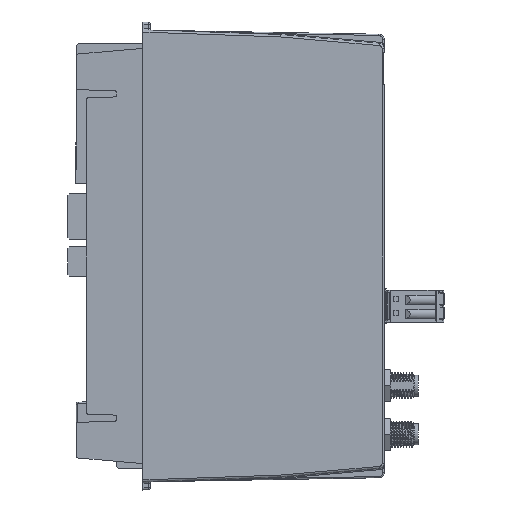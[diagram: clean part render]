
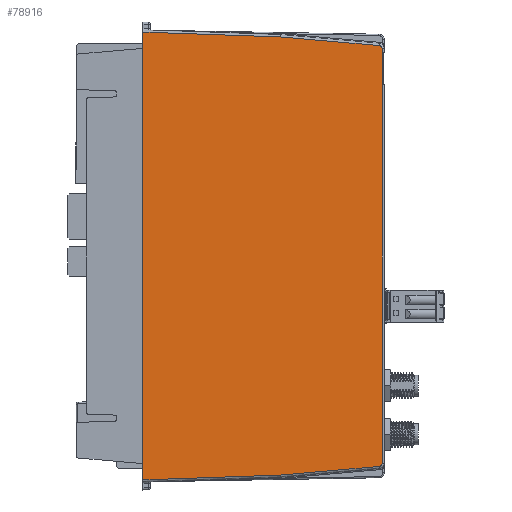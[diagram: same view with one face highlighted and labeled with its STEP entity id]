
A CAD part, left-side view. The second image highlights one B-rep face of the part: STEP entity #78916.
In plain terms, the highlighted planar face has unit normal (-1, -0.018, 0).
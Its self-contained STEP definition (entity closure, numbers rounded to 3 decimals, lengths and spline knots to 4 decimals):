
#671=ELLIPSE('',#83242,0.0315,0.0315);
#672=ELLIPSE('',#83243,0.0315,0.0315);
#2689=PLANE('',#83241);
#6704=FACE_OUTER_BOUND('',#10847,.T.);
#10847=EDGE_LOOP('',(#59601,#59602,#59603,#59604,#59605,#59606,#59607,#59608,
#59609,#59610));
#19430=LINE('',#151743,#27458);
#19751=LINE('',#153022,#27779);
#19752=LINE('',#153024,#27780);
#19753=LINE('',#153026,#27781);
#19754=LINE('',#153028,#27782);
#19755=LINE('',#153030,#27783);
#19756=LINE('',#153034,#27784);
#19757=LINE('',#153037,#27785);
#27458=VECTOR('',#93658,39.3701);
#27779=VECTOR('',#94353,39.3701);
#27780=VECTOR('',#94354,39.3701);
#27781=VECTOR('',#94355,39.3701);
#27782=VECTOR('',#94356,39.3701);
#27783=VECTOR('',#94357,39.3701);
#27784=VECTOR('',#94360,39.3701);
#27785=VECTOR('',#94363,39.3701);
#35353=VERTEX_POINT('',#151740);
#35354=VERTEX_POINT('',#151742);
#35646=VERTEX_POINT('',#153021);
#35647=VERTEX_POINT('',#153023);
#35648=VERTEX_POINT('',#153025);
#35649=VERTEX_POINT('',#153027);
#35650=VERTEX_POINT('',#153029);
#35651=VERTEX_POINT('',#153031);
#35652=VERTEX_POINT('',#153033);
#35653=VERTEX_POINT('',#153035);
#43929=EDGE_CURVE('',#35354,#35353,#19430,.T.);
#44356=EDGE_CURVE('',#35353,#35646,#19751,.T.);
#44357=EDGE_CURVE('',#35647,#35646,#19752,.T.);
#44358=EDGE_CURVE('',#35647,#35648,#19753,.T.);
#44359=EDGE_CURVE('',#35648,#35649,#19754,.T.);
#44360=EDGE_CURVE('',#35649,#35650,#19755,.T.);
#44361=EDGE_CURVE('',#35650,#35651,#671,.T.);
#44362=EDGE_CURVE('',#35651,#35652,#19756,.T.);
#44363=EDGE_CURVE('',#35652,#35653,#672,.T.);
#44364=EDGE_CURVE('',#35653,#35354,#19757,.T.);
#59601=ORIENTED_EDGE('',*,*,#43929,.T.);
#59602=ORIENTED_EDGE('',*,*,#44356,.T.);
#59603=ORIENTED_EDGE('',*,*,#44357,.F.);
#59604=ORIENTED_EDGE('',*,*,#44358,.T.);
#59605=ORIENTED_EDGE('',*,*,#44359,.T.);
#59606=ORIENTED_EDGE('',*,*,#44360,.T.);
#59607=ORIENTED_EDGE('',*,*,#44361,.T.);
#59608=ORIENTED_EDGE('',*,*,#44362,.T.);
#59609=ORIENTED_EDGE('',*,*,#44363,.T.);
#59610=ORIENTED_EDGE('',*,*,#44364,.T.);
#78916=ADVANCED_FACE('',(#6704),#2689,.T.);
#83241=AXIS2_PLACEMENT_3D('',#153020,#94351,#94352);
#83242=AXIS2_PLACEMENT_3D('',#153032,#94358,#94359);
#83243=AXIS2_PLACEMENT_3D('',#153036,#94361,#94362);
#93658=DIRECTION('',(-0.017,0.999,0.035));
#94351=DIRECTION('center_axis',(-1.,-0.017,
0.));
#94352=DIRECTION('ref_axis',(-0.017,1.,0.));
#94353=DIRECTION('',(0.,0.,-1.));
#94354=DIRECTION('',(0.,0.,1.));
#94355=DIRECTION('',(0.,0.,-1.));
#94356=DIRECTION('',(0.017,-0.999,0.035));
#94357=DIRECTION('',(0.017,-0.996,0.087));
#94358=DIRECTION('center_axis',(-1.,-0.017,
0.));
#94359=DIRECTION('ref_axis',(0.017,-1.,0.));
#94360=DIRECTION('',(0.,0.,1.));
#94361=DIRECTION('center_axis',(-1.,-0.017,
0.));
#94362=DIRECTION('ref_axis',(0.017,-1.,0.));
#94363=DIRECTION('',(-0.017,0.996,0.087));
#151740=CARTESIAN_POINT('',(-0.0227,-0.8686,0.1083));
#151742=CARTESIAN_POINT('',(0.0007,-2.2063,0.0616));
#151743=CARTESIAN_POINT('',(-0.0282,-0.5512,0.1194));
#153020=CARTESIAN_POINT('Origin',(-0.0295,-0.4749,
-2.0669));
#153021=CARTESIAN_POINT('',(-0.0227,-0.8686,-0.0312));
#153022=CARTESIAN_POINT('',(-0.0227,-0.8686,0.128));
#153023=CARTESIAN_POINT('',(-0.0227,-0.8686,-4.1027));
#153024=CARTESIAN_POINT('',(-0.0227,-0.8686,-7.5932));
#153025=CARTESIAN_POINT('',(-0.0227,-0.8686,-4.2421));
#153026=CARTESIAN_POINT('',(-0.0227,-0.8686,0.128));
#153027=CARTESIAN_POINT('',(0.0007,-2.2063,-4.1954));
#153028=CARTESIAN_POINT('',(-0.0282,-0.5512,-4.2532));
#153029=CARTESIAN_POINT('',(0.0174,-3.163,-4.1117));
#153030=CARTESIAN_POINT('',(-0.0261,-0.6728,-4.3296));
#153031=CARTESIAN_POINT('',(0.0179,-3.1918,-4.0803));
#153032=CARTESIAN_POINT('Origin',(0.0173,-3.1603,-4.0803));
#153033=CARTESIAN_POINT('',(0.0179,-3.1918,-0.0535));
#153034=CARTESIAN_POINT('',(0.0179,-3.1918,-0.0535));
#153035=CARTESIAN_POINT('',(0.0174,-3.163,-0.0221));
#153036=CARTESIAN_POINT('Origin',(0.0173,-3.1603,
-0.0535));
#153037=CARTESIAN_POINT('',(-0.0261,-0.6728,0.1957));
